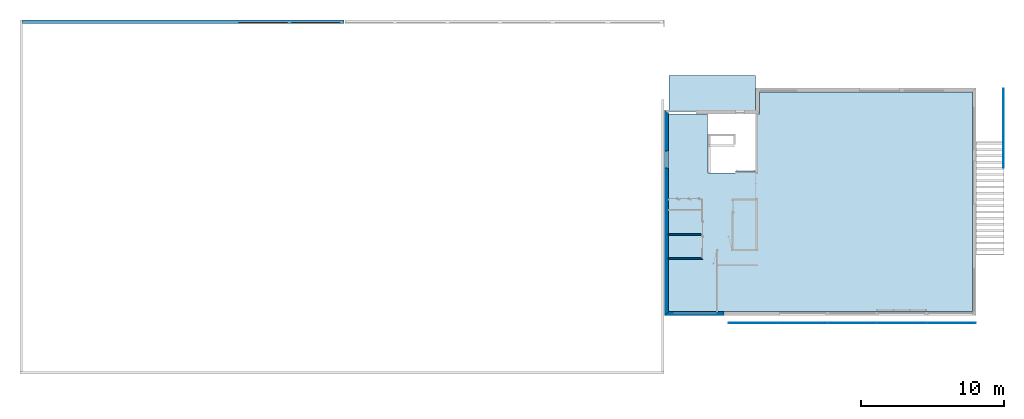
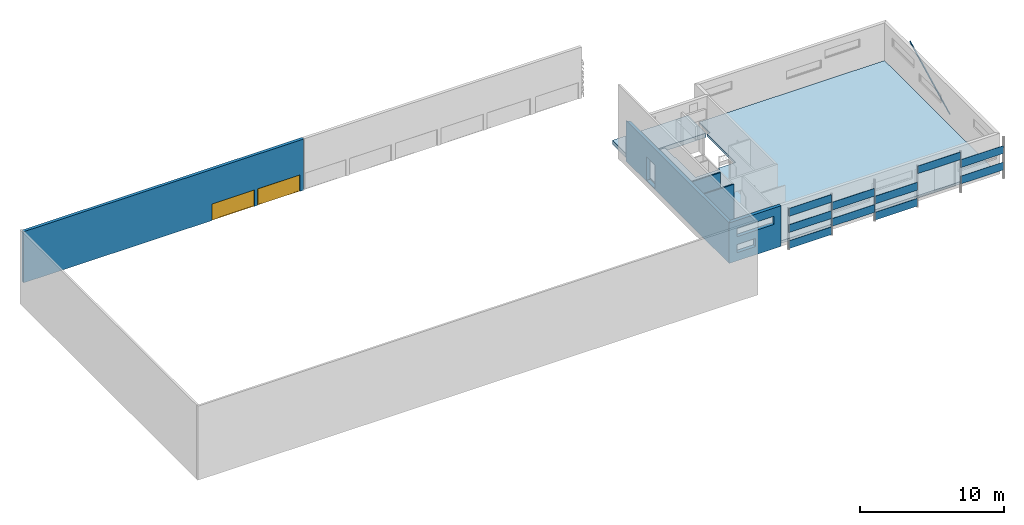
# One storey, part 3 of 14: 12 slabs, 5 walls, 2 windows, 1 beam, 5 openings.
"""IFC2X3 building model written with IfcOpenShell, lengths in metres."""

from ifc_helpers import new_model, entity, si_unit, converted_unit, money_unit, direction, frame, frame_2d, origin_with_axes, place, context, subcontext, project, spatial, polyline, rectangle, outline, extrude, clip, halfspace, open_shell, faceted_brep, surface_model, source, transform, mapped, material, layer, layer_set, layer_usage, type_object, element, fill, save


model = new_model("IFC2X3")

# Units and contexts
model_context = context("Model", 3, precision=1e-05, world=origin_with_axes(), true_north=direction((0.0, 1.0)))
body_context = subcontext(model_context, "Body", "Model", "MODEL_VIEW")
ifc_project = project(units=[si_unit("LENGTHUNIT", "METRE"), si_unit("AREAUNIT", "SQUARE_METRE"), si_unit("VOLUMEUNIT", "CUBIC_METRE"), converted_unit("PLANEANGLEUNIT", "DEGREE", entity("IfcPlaneAngleMeasure", 0.0174532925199), si_unit("PLANEANGLEUNIT", "RADIAN"), dimensions=[0, 0, 0, 0, 0, 0, 0]), si_unit("SOLIDANGLEUNIT", "STERADIAN"), money_unit("EUR"), converted_unit("TIMEUNIT", "Year", entity("IfcTimeMeasure", 31556926.0), si_unit("TIMEUNIT", "SECOND"), dimensions=[0, 0, 0, 0, 0, 0, 0]), si_unit("MASSUNIT", "GRAM"), si_unit("THERMODYNAMICTEMPERATUREUNIT", "DEGREE_CELSIUS"), si_unit("LUMINOUSINTENSITYUNIT", "LUMEN")], contexts=[model_context])

# Site, building, storey
site_placement = place(None, origin_with_axes())
site = spatial("IfcSite", under=ifc_project, at=site_placement, Name="Site", CompositionType="ELEMENT")
building_placement = place(site_placement, origin_with_axes())
building = spatial("IfcBuilding", under=site, at=building_placement, Name="Bâtiment", CompositionType="ELEMENT")
storey_placement = place(building_placement, frame((0.0, 0.0, 3.0), z_axis=(0.0, 0.0, 1.0), x_axis=(1.0, 0.0, 0.0)))
storey = spatial("IfcBuildingStorey", under=building, at=storey_placement, Name="NIVEAU HAUT ENTRÉE", CompositionType="ELEMENT", Elevation=3.0)

# Beam
ifc_material_1 = material(Name="Hachure solide 2670559909")
beam_type = type_object("IfcBeamType", Name="Hachure solide 2670559909 60 x 40", PredefinedType="NOTDEFINED")
beam_placement = place(storey_placement, frame((69.1798927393, 16.1957366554, -2.07618133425), z_axis=(0.0, 0.0, 1.0), x_axis=(1.0, 0.0, 0.0)))
element("IfcBeam", 1, at=beam_placement, inside=storey, type_object=beam_type, material=ifc_material_1, Name="Pou-003", ObjectType="Hachure solide 2670559909 60 x 40", context=body_context, shape_type="Clipping", body=[
    clip(clip(extrude(rectangle(XDim=0.04, YDim=0.06, at=frame_2d((-0.02, 0.0), x_axis=(1.0, 0.0))), frame((0.0, -0.0257107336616, -0.0131190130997), z_axis=(0.0, 0.890743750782, 0.454505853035), x_axis=(0.0, -0.454505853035, 0.890743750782)), (0.0, 0.0, 1.0), 6.27586936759), halfspace(frame((0.0, 5.53876995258, 0.0), z_axis=(0.0, -1.0, 0.0), x_axis=(0.0, 0.0, -1.0)), True)), halfspace(frame((0.0, 0.0, 0.0), z_axis=(0.0, 1.0, 0.0), x_axis=(0.0, 0.0, 1.0)), True)),
])

# Slabs
ifc_material_2 = material(Name="Hachure solide* 2593434267")
ifc_layer_1 = layer(ifc_material_2, 0.2, ventilated="UNKNOWN")
ifc_layer_set_1 = layer_set([ifc_layer_1], Name="Hachure solide* 2593434267 0.2")
ifc_layer_usage_1 = layer_usage(ifc_layer_set_1, "AXIS3", "NEGATIVE", 0.2)
slab_type_1 = type_object("IfcSlabType", Name="Hachure solide* 2593434267 200", PredefinedType="FLOOR")
slab_1_placement = place(storey_placement, frame((45.738457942, 19.968815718, 0.0), z_axis=(0.0, 0.0, 1.0), x_axis=(1.0, 0.0, 0.0)))
element("IfcSlab", 2, at=slab_1_placement, inside=storey, type_object=slab_type_1, material=ifc_layer_usage_1, Name="Dalle-002", PredefinedType="FLOOR", context=body_context, shape_type="SweptSolid", body=[
    extrude(outline(polyline([(0.0, 0.0), (0.0, -13.84), (21.26, -13.84), (21.26, 1.53), (6.36, 1.53), (6.36, 0.0), (6.1, 0.0), (6.1, -4.0), (4.7, -4.0), (4.7, -4.16), (2.78, -4.16), (2.78, -1.4), (2.72, -1.4), (2.72, 0.0), (0.0, 0.0)])), frame((0.0, 0.0, -0.2), z_axis=(0.0, 0.0, 1.0), x_axis=(1.0, 0.0, 0.0)), (0.0, 0.0, 1.0), 0.2),
])
ifc_layer_2 = layer(ifc_material_2, 0.37, ventilated="UNKNOWN")
ifc_layer_set_2 = layer_set([ifc_layer_2], Name="Hachure solide* 2593434267 0.37")
ifc_layer_usage_2 = layer_usage(ifc_layer_set_2, "AXIS3", "NEGATIVE", 0.37)
slab_type_2 = type_object("IfcSlabType", Name="Hachure solide* 2593434267 370", PredefinedType="FLOOR")
slab_2_placement = place(storey_placement, frame((45.778457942, 22.628815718, -0.03), z_axis=(0.0, 0.0, 1.0), x_axis=(1.0, 0.0, 0.0)))
element("IfcSlab", 3, at=slab_2_placement, inside=storey, type_object=slab_type_2, material=ifc_layer_usage_2, Name="Dalle-001", PredefinedType="FLOOR", context=body_context, shape_type="SweptSolid", body=[
    extrude(outline(polyline([(0.0, 0.0), (0.0, -2.5), (6.06, -2.5), (6.06, 0.0), (0.0, 0.0)])), frame((0.0, 0.0, -0.37), z_axis=(0.0, 0.0, 1.0), x_axis=(1.0, 0.0, 0.0)), (0.0, 0.0, 1.0), 0.37),
])
ifc_layer_3 = layer(ifc_material_2, 0.66, ventilated="UNKNOWN")
ifc_layer_set_3 = layer_set([ifc_layer_3], Name="Hachure solide* 2593434267 0.66")
ifc_layer_usage_3 = layer_usage(ifc_layer_set_3, "AXIS3", "NEGATIVE", 0.66)
slab_type_3 = type_object("IfcSlabType", Name="Hachure solide* 2593434267 660", PredefinedType="FLOOR")
slab_3_placement = place(storey_placement, frame((63.800457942, 5.34555409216, 1.09), z_axis=(0.0, 0.0, 1.0), x_axis=(1.0, 0.0, 0.0)))
element("IfcSlab", 4, at=slab_3_placement, inside=storey, type_object=slab_type_3, material=ifc_layer_usage_3, Name="Dalle-001", PredefinedType="FLOOR", context=body_context, shape_type="SweptSolid", body=[
    extrude(outline(polyline([(0.0, 0.0), (0.0, -0.022731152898), (3.428, -0.022731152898), (3.428, 0.0), (0.0, 0.0)])), frame((0.0, 0.0, -0.66), z_axis=(0.0, 0.0, 1.0), x_axis=(1.0, 0.0, 0.0)), (0.0, 0.0, 1.0), 0.66),
])
ifc_layer_usage_4 = layer_usage(ifc_layer_set_3, "AXIS3", "NEGATIVE", 0.66)
slab_4_placement = place(storey_placement, frame((56.884457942, 5.34555409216, 0.43), z_axis=(0.0, 0.0, 1.0), x_axis=(1.0, 0.0, 0.0)))
element("IfcSlab", 5, at=slab_4_placement, inside=storey, type_object=slab_type_3, material=ifc_layer_usage_4, Name="Dalle-001", PredefinedType="FLOOR", context=body_context, shape_type="SweptSolid", body=[
    extrude(outline(polyline([(0.0, 0.0), (0.0, -0.022731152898), (3.419, -0.022731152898), (3.419, 0.0), (0.0, 0.0)])), frame((0.0, 0.0, -0.66), z_axis=(0.0, 0.0, 1.0), x_axis=(1.0, 0.0, 0.0)), (0.0, 0.0, 1.0), 0.66),
])
ifc_layer_usage_5 = layer_usage(ifc_layer_set_3, "AXIS3", "NEGATIVE", 0.66)
slab_5_placement = place(storey_placement, frame((53.426457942, 5.34555409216, 2.49), z_axis=(0.0, 0.0, 1.0), x_axis=(1.0, 0.0, 0.0)))
element("IfcSlab", 6, at=slab_5_placement, inside=storey, type_object=slab_type_3, material=ifc_layer_usage_5, Name="Dalle-001", PredefinedType="FLOOR", context=body_context, shape_type="SweptSolid", body=[
    extrude(outline(polyline([(0.0, 0.0), (0.0, -0.022731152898), (3.428, -0.022731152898), (3.428, 0.0), (0.0, 0.0)])), frame((0.0, 0.0, -0.66), z_axis=(0.0, 0.0, 1.0), x_axis=(1.0, 0.0, 0.0)), (0.0, 0.0, 1.0), 0.66),
])
ifc_layer_usage_6 = layer_usage(ifc_layer_set_3, "AXIS3", "NEGATIVE", 0.66)
slab_6_placement = place(storey_placement, frame((53.4259576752, 5.34555409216, 1.10998747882), z_axis=(0.0, 0.0, 1.0), x_axis=(1.0, 0.0, 0.0)))
element("IfcSlab", 7, at=slab_6_placement, inside=storey, type_object=slab_type_3, material=ifc_layer_usage_6, Name="Dalle-001", PredefinedType="FLOOR", context=body_context, shape_type="SweptSolid", body=[
    extrude(outline(polyline([(0.0, 0.0), (0.0, -0.022731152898), (3.428, -0.022731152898), (3.428, 0.0), (0.0, 0.0)])), frame((0.0, 0.0, -0.66), z_axis=(0.0, 0.0, 1.0), x_axis=(1.0, 0.0, 0.0)), (0.0, 0.0, 1.0), 0.66),
])
ifc_layer_usage_7 = layer_usage(ifc_layer_set_3, "AXIS3", "NEGATIVE", 0.66)
slab_7_placement = place(storey_placement, frame((63.800457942, 5.34555409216, 2.49), z_axis=(0.0, 0.0, 1.0), x_axis=(1.0, 0.0, 0.0)))
element("IfcSlab", 8, at=slab_7_placement, inside=storey, type_object=slab_type_3, material=ifc_layer_usage_7, Name="Dalle-001", PredefinedType="FLOOR", context=body_context, shape_type="SweptSolid", body=[
    extrude(outline(polyline([(0.0, 0.0), (0.0, -0.022731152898), (3.428, -0.022731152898), (3.428, 0.0), (0.0, 0.0)])), frame((0.0, 0.0, -0.66), z_axis=(0.0, 0.0, 1.0), x_axis=(1.0, 0.0, 0.0)), (0.0, 0.0, 1.0), 0.66),
])
ifc_layer_usage_8 = layer_usage(ifc_layer_set_3, "AXIS3", "NEGATIVE", 0.66)
slab_8_placement = place(storey_placement, frame((56.884457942, 5.34555409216, 1.8), z_axis=(0.0, 0.0, 1.0), x_axis=(1.0, 0.0, 0.0)))
element("IfcSlab", 9, at=slab_8_placement, inside=storey, type_object=slab_type_3, material=ifc_layer_usage_8, Name="Dalle-001", PredefinedType="FLOOR", context=body_context, shape_type="SweptSolid", body=[
    extrude(outline(polyline([(0.0, 0.0), (0.0, -0.022731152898), (3.419, -0.022731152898), (3.419, 0.0), (0.0, 0.0)])), frame((0.0, 0.0, -0.66), z_axis=(0.0, 0.0, 1.0), x_axis=(1.0, 0.0, 0.0)), (0.0, 0.0, 1.0), 0.66),
])
ifc_layer_usage_9 = layer_usage(ifc_layer_set_3, "AXIS3", "NEGATIVE", 0.66)
slab_9_placement = place(storey_placement, frame((49.968457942, 5.34555409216, 1.8), z_axis=(0.0, 0.0, 1.0), x_axis=(1.0, 0.0, 0.0)))
element("IfcSlab", 10, at=slab_9_placement, inside=storey, type_object=slab_type_3, material=ifc_layer_usage_9, Name="Dalle-001", PredefinedType="FLOOR", context=body_context, shape_type="SweptSolid", body=[
    extrude(outline(polyline([(0.0, 0.0), (0.0, -0.0229975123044), (3.428, -0.0229975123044), (3.428, 0.0), (0.0, 0.0)])), frame((0.0, 0.0, -0.66), z_axis=(0.0, 0.0, 1.0), x_axis=(1.0, 0.0, 0.0)), (0.0, 0.0, 1.0), 0.66),
])
ifc_layer_usage_10 = layer_usage(ifc_layer_set_3, "AXIS3", "NEGATIVE", 0.66)
slab_10_placement = place(storey_placement, frame((49.968457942, 5.34555409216, 3.18), z_axis=(0.0, 0.0, 1.0), x_axis=(1.0, 0.0, 0.0)))
element("IfcSlab", 11, at=slab_10_placement, inside=storey, type_object=slab_type_3, material=ifc_layer_usage_10, Name="Dalle-001", PredefinedType="FLOOR", context=body_context, shape_type="SweptSolid", body=[
    extrude(outline(polyline([(0.0, 0.0), (0.0, -0.0229975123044), (3.428, -0.0229975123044), (3.428, 0.0), (0.0, 0.0)])), frame((0.0, 0.0, -0.66), z_axis=(0.0, 0.0, 1.0), x_axis=(1.0, 0.0, 0.0)), (0.0, 0.0, 1.0), 0.66),
])
ifc_layer_usage_11 = layer_usage(ifc_layer_set_3, "AXIS3", "NEGATIVE", 0.66)
slab_11_placement = place(storey_placement, frame((49.968457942, 5.34555409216, 0.43), z_axis=(0.0, 0.0, 1.0), x_axis=(1.0, 0.0, 0.0)))
element("IfcSlab", 12, at=slab_11_placement, inside=storey, type_object=slab_type_3, material=ifc_layer_usage_11, Name="Dalle-001", PredefinedType="FLOOR", context=body_context, shape_type="SweptSolid", body=[
    extrude(outline(polyline([(0.0, 0.0), (0.0, -0.0229975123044), (3.428, -0.0229975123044), (3.428, 0.0), (0.0, 0.0)])), frame((0.0, 0.0, -0.66), z_axis=(0.0, 0.0, 1.0), x_axis=(1.0, 0.0, 0.0)), (0.0, 0.0, 1.0), 0.66),
])
ifc_layer_4 = layer(ifc_material_2, 0.64, ventilated="UNKNOWN")
ifc_layer_set_4 = layer_set([ifc_layer_4], Name="Hachure solide* 2593434267 0.64")
ifc_layer_usage_12 = layer_usage(ifc_layer_set_4, "AXIS3", "NEGATIVE", 0.64)
slab_type_4 = type_object("IfcSlabType", Name="Hachure solide* 2593434267 640", PredefinedType="FLOOR")
slab_12_placement = place(storey_placement, frame((60.333457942, 5.34555409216, 3.16), z_axis=(0.0, 0.0, 1.0), x_axis=(1.0, 0.0, 0.0)))
element("IfcSlab", 13, at=slab_12_placement, inside=storey, type_object=slab_type_4, material=ifc_layer_usage_12, Name="Dalle-001", PredefinedType="FLOOR", context=body_context, shape_type="SweptSolid", body=[
    extrude(outline(polyline([(0.0, 0.0), (0.0, -0.022731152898), (3.437, -0.022731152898), (3.437, 0.0), (0.0, 0.0)])), frame((0.0, 0.0, -0.64), z_axis=(0.0, 0.0, 1.0), x_axis=(1.0, 0.0, 0.0)), (0.0, 0.0, 1.0), 0.64),
])

# Walls
ifc_material_3 = material(Name="Hachure solide* 3962059836")
ifc_layer_5 = layer(ifc_material_3, 0.1, ventilated="UNKNOWN")
ifc_layer_set_5 = layer_set([ifc_layer_5], Name="Hachure solide* 3962059836 0.1")
ifc_layer_usage_13 = layer_usage(ifc_layer_set_5, "AXIS2", "POSITIVE", 0.0)
wall_type_1 = type_object("IfcWallType", Name="Hachure solide* 3962059836 100", PredefinedType="NOTDEFINED")
wall_1_placement = place(storey_placement, frame((48.1362015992, 11.578815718, 0.0), z_axis=(0.0, 0.0, 1.0), x_axis=(-1.0, 0.0, 0.0)))
element("IfcWallStandardCase", 14, at=wall_1_placement, inside=storey, type_object=wall_type_1, material=ifc_layer_usage_13, Name="Mur-005", context=body_context, shape_type="SweptSolid", body=[
    extrude(outline(polyline([(0.1, 0.0), (2.3977436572, 0.0), (2.3977436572, 0.1), (0.1, 0.1), (0.1, 0.0)])), origin_with_axes(), (0.0, 0.0, 1.0), 3.2),
])
ifc_layer_usage_14 = layer_usage(ifc_layer_set_5, "AXIS2", "POSITIVE", 0.0)
wall_2_placement = place(storey_placement, frame((48.1362015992, 9.87881571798, 0.0), z_axis=(0.0, 0.0, 1.0), x_axis=(-1.0, 0.0, 0.0)))
element("IfcWallStandardCase", 15, at=wall_2_placement, inside=storey, type_object=wall_type_1, material=ifc_layer_usage_14, Name="Mur-002", context=body_context, shape_type="SweptSolid", body=[
    extrude(outline(polyline([(0.1, 0.0), (2.3977436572, 0.0), (2.3977436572, 0.1), (0.0, 0.1), (0.1, 0.0)])), origin_with_axes(), (0.0, 0.0, 1.0), 3.2),
])

# Wall, opening
ifc_layer_6 = layer(ifc_material_2, 0.16, ventilated="UNKNOWN")
ifc_material_4 = material(Name="Empty Fill 290923149")
ifc_layer_7 = layer(ifc_material_4, 0.08, ventilated="UNKNOWN")
ifc_material_5 = material(Name="Hachure solide* 3992800808")
ifc_layer_8 = layer(ifc_material_5, 0.02, ventilated="UNKNOWN")
ifc_layer_set_6 = layer_set([ifc_layer_6, ifc_layer_7, ifc_layer_8], Name="•GYMN 16+10 (1)")
ifc_layer_usage_15 = layer_usage(ifc_layer_set_6, "AXIS2", "POSITIVE", 0.0)
wall_type_2 = type_object("IfcWallType", Name="•GYMN 16+10 260", PredefinedType="NOTDEFINED")
wall_3_placement = place(storey_placement, frame((45.478457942, 20.228815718, -0.25), z_axis=(0.0, 0.0, 1.0), x_axis=(0.0, -1.0, 0.0)))
wall_3 = element("IfcWallStandardCase", 16, at=wall_3_placement, inside=storey, type_object=wall_type_2, material=ifc_layer_usage_15, Name="Mur-004", context=body_context, shape_type="SweptSolid", body=[
    extrude(outline(polyline([(0.0, 0.0), (14.36, 0.0), (14.1, 0.26), (0.26, 0.26), (0.0, 0.0)])), origin_with_axes(), (0.0, 0.0, 1.0), 3.45),
])
opening_1_placement = place(wall_3_placement, frame((3.45885483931, 0.0, 0.1), z_axis=(0.0, 0.0, 1.0), x_axis=(1.0, 0.0, 0.0)))
element("IfcOpeningElement", 17, at=opening_1_placement, cuts=wall_3, Name="Fen-007", context=body_context, shape_type="SweptSolid", body=[
    extrude(outline(polyline([(0.6, -2.0), (0.6, 0.0), (-0.6, 0.0), (-0.6, -2.0), (0.6, -2.0)])), frame((0.0, 0.26, 0.0), z_axis=(0.0, 1.0, 0.0), x_axis=(1.0, 0.0, 0.0)), (0.0, 0.0, 1.0), 0.28),
    extrude(outline(polyline([(0.6, 0.0), (0.6, 2.0), (-0.6, 2.0), (-0.6, 0.0), (0.6, 0.0)])), frame((0.0, 0.26, 0.0), z_axis=(0.0, -1.0, 0.0), x_axis=(1.0, 0.0, 0.0)), (0.0, 0.0, 1.0), 0.28),
])

# Wall, openings
ifc_layer_9 = layer(ifc_material_5, 0.02, ventilated="UNKNOWN")
ifc_layer_10 = layer(ifc_material_4, 0.08, ventilated="UNKNOWN")
ifc_layer_11 = layer(ifc_material_2, 0.16, ventilated="UNKNOWN")
ifc_layer_set_7 = layer_set([ifc_layer_9, ifc_layer_10, ifc_layer_11], Name="•GYMN 16+10")
ifc_layer_usage_16 = layer_usage(ifc_layer_set_7, "AXIS2", "POSITIVE", -0.26)
wall_4_placement = place(storey_placement, frame((49.638457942, 5.86881571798, -0.25), z_axis=(0.0, 0.0, 1.0), x_axis=(-1.0, 0.0, 0.0)))
wall_4 = element("IfcWallStandardCase", 18, at=wall_4_placement, inside=storey, type_object=wall_type_2, material=ifc_layer_usage_16, Name="Mur-004", context=body_context, shape_type="SweptSolid", body=[
    extrude(outline(polyline([(0.0, -0.26), (3.9, -0.26), (4.16, 0.0), (0.0, 0.0), (0.0, -0.26)])), origin_with_axes(), (0.0, 0.0, 1.0), 3.45),
])
opening_2_placement = place(wall_4_placement, frame((2.0422563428, 0.0, 2.0608240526), z_axis=(0.0, 0.0, 1.0), x_axis=(1.0, 0.0, 0.0)))
element("IfcOpeningElement", 19, at=opening_2_placement, cuts=wall_4, Name="Fen-028", context=body_context, shape_type="SweptSolid", body=[
    extrude(outline(polyline([(-1.5, 0.7), (-1.5, 0.0), (1.5, 0.0), (1.5, 0.7), (-1.5, 0.7)])), frame((0.0, -0.18, 0.0), z_axis=(0.0, 1.0, 0.0), x_axis=(-1.0, 0.0, 0.0)), (0.0, 0.0, 1.0), 0.44),
    extrude(outline(polyline([(-1.5, 0.0), (-1.5, -0.7), (1.5, -0.7), (1.5, 0.0), (-1.5, 0.0)])), frame((0.0, -0.18, 0.0), z_axis=(0.0, -1.0, 0.0), x_axis=(-1.0, 0.0, 0.0)), (0.0, 0.0, 1.0), 0.34),
])
opening_3_placement = place(wall_4_placement, frame((2.7922563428, 0.0, 0.7), z_axis=(0.0, 0.0, 1.0), x_axis=(1.0, 0.0, 0.0)))
element("IfcOpeningElement", 20, at=opening_3_placement, cuts=wall_4, Name="Fen-028", context=body_context, shape_type="SweptSolid", body=[
    extrude(outline(polyline([(-0.75, 0.7), (-0.75, 0.0), (0.75, 0.0), (0.75, 0.7), (-0.75, 0.7)])), frame((0.0, -0.18, 0.0), z_axis=(0.0, 1.0, 0.0), x_axis=(-1.0, 0.0, 0.0)), (0.0, 0.0, 1.0), 0.44),
    extrude(outline(polyline([(-0.75, 0.0), (-0.75, -0.7), (0.75, -0.7), (0.75, 0.0), (-0.75, 0.0)])), frame((0.0, -0.18, 0.0), z_axis=(0.0, -1.0, 0.0), x_axis=(-1.0, 0.0, 0.0)), (0.0, 0.0, 1.0), 0.34),
])

# Wall, openings, windows
ifc_material_6 = material(Name="Hachure solide* 1842511997")
ifc_layer_12 = layer(ifc_material_6, 0.1, ventilated="UNKNOWN")
ifc_material_7 = material(Name="Isolation 347608549")
ifc_layer_13 = layer(ifc_material_7, 0.12, ventilated="UNKNOWN")
ifc_material_8 = material(Name="Hachure solide* 398427698")
ifc_layer_14 = layer(ifc_material_8, 0.02, ventilated="UNKNOWN")
ifc_layer_set_8 = layer_set([ifc_layer_12, ifc_layer_13, ifc_layer_14], Name="•GYMN PANNEAU 1 0232896968")
ifc_layer_usage_17 = layer_usage(ifc_layer_set_8, "AXIS2", "POSITIVE", -0.24)
wall_type_3 = type_object("IfcWallType", Name="•GYMN PANNEAU 1 0232896968 240", PredefinedType="NOTDEFINED")
wall_5_placement = place(storey_placement, frame((0.528618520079, 26.5291158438, 1.46), z_axis=(0.0, 0.0, 1.0), x_axis=(1.0, 0.0, 0.0)))
wall_5 = element("IfcWallStandardCase", 21, at=wall_5_placement, inside=storey, type_object=wall_type_3, material=ifc_layer_usage_17, Name="Mur-003", context=body_context, shape_type="SweptSolid", body=[
    extrude(outline(polyline([(0.0, -0.24), (22.52, -0.24), (22.52, 0.0), (0.0, 0.0), (0.0, -0.24)])), origin_with_axes(), (0.0, 0.0, 1.0), 4.35),
])
opening_4_placement = place(wall_5_placement, frame((16.8433333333, 0.0, 0.0), z_axis=(0.0, 0.0, 1.0), x_axis=(1.0, 0.0, 0.0)))
opening_4 = element("IfcOpeningElement", 22, at=opening_4_placement, cuts=wall_5, Name="Fen-028", context=body_context, shape_type="SweptSolid", body=[
    extrude(outline(polyline([(1.7, 0.0), (-1.7, 0.0), (-1.7, -1.405702), (1.7, -1.405702), (1.7, 0.0)])), frame((0.0, -0.16, 0.0), z_axis=(0.0, 1.0, 0.0), x_axis=(1.0, 0.0, 0.0)), (0.0, 0.0, 1.0), 0.4),
    extrude(outline(polyline([(1.7, 1.405702), (-1.7, 1.405702), (-1.7, 0.0), (1.7, 0.0), (1.7, 1.405702)])), frame((0.0, -0.16, 0.0), z_axis=(0.0, -1.0, 0.0), x_axis=(1.0, 0.0, 0.0)), (0.0, 0.0, 1.0), 0.32),
])
opening_5_placement = place(wall_5_placement, frame((20.52, 0.0, 0.0), z_axis=(0.0, 0.0, 1.0), x_axis=(1.0, 0.0, 0.0)))
opening_5 = element("IfcOpeningElement", 23, at=opening_5_placement, cuts=wall_5, Name="Fen-028", context=body_context, shape_type="SweptSolid", body=[
    extrude(outline(polyline([(1.7, 0.0), (-1.7, 0.0), (-1.7, -1.405702), (1.7, -1.405702), (1.7, 0.0)])), frame((0.0, -0.16, 0.0), z_axis=(0.0, 1.0, 0.0), x_axis=(1.0, 0.0, 0.0)), (0.0, 0.0, 1.0), 0.4),
    extrude(outline(polyline([(1.7, 1.405702), (-1.7, 1.405702), (-1.7, 0.0), (1.7, 0.0), (1.7, 1.405702)])), frame((0.0, -0.16, 0.0), z_axis=(0.0, -1.0, 0.0), x_axis=(1.0, 0.0, 0.0)), (0.0, 0.0, 1.0), 0.32),
])
ifc_material_9 = material(Name="Sans Trame")
window_style = type_object("IfcWindowStyle", Name="Fen bascule 1 10", ConstructionType="NOTDEFINED", OperationType="SINGLE_PANEL", ParameterTakesPrecedence=False, Sizeable=False)
shared_shape = source(origin_with_axes(), body_context, "Body", "SurfaceModel", [
    faceted_brep([(1.68, -0.2, 1.365702), (1.7, -0.2, 1.365702), (1.7, -0.16, 1.365702), (1.66, -0.16, 1.365702), (1.66, -0.18, 1.365702), (1.68, -0.18, 1.365702), (1.68, -0.2, 0.039999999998), (1.7, -0.2, 0.039999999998), (1.7, -0.16, 0.039999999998), (1.66, -0.16, 0.039999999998), (1.66, -0.18, 0.039999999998), (1.68, -0.18, 0.039999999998)], [[[0, 1, 2, 3, 4, 5]], [[6, 7, 1, 0]], [[1, 7, 8, 2]], [[2, 8, 9, 3]], [[4, 3, 9, 10]], [[10, 11, 5, 4]], [[5, 11, 6, 0]], [[11, 10, 9, 8, 7, 6]]]),
    faceted_brep([(-1.66, -0.18, 1.365702), (-1.66, -0.16, 1.365702), (-1.7, -0.16, 1.365702), (-1.7, -0.2, 1.365702), (-1.68, -0.2, 1.365702), (-1.68, -0.18, 1.365702), (-1.66, -0.18, 0.039999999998), (-1.66, -0.16, 0.039999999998), (-1.7, -0.16, 0.039999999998), (-1.7, -0.2, 0.039999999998), (-1.68, -0.2, 0.039999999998), (-1.68, -0.18, 0.039999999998)], [[[0, 1, 2, 3, 4, 5]], [[6, 7, 1, 0]], [[8, 2, 1, 7]], [[9, 3, 2, 8]], [[4, 3, 9, 10]], [[10, 11, 5, 4]], [[5, 11, 6, 0]], [[11, 10, 9, 8, 7, 6]]]),
    faceted_brep([(1.68, -0.2, 1.365702), (1.7, -0.2, 1.365702), (1.7, -0.2, 1.405702), (-1.7, -0.2, 1.405702), (-1.7, -0.2, 1.365702), (-1.68, -0.2, 1.365702), (-1.68, -0.2, 1.385702), (1.68, -0.2, 1.385702), (1.68, -0.18, 1.365702), (1.66, -0.18, 1.365702), (1.66, -0.16, 1.365702), (1.7, -0.16, 1.365702), (1.7, -0.16, 1.405702), (-1.7, -0.16, 1.405702), (-1.7, -0.16, 1.365702), (-1.68, -0.18, 1.365702), (-1.66, -0.16, 1.365702), (-1.66, -0.18, 1.365702), (-1.68, -0.18, 1.385702), (1.68, -0.18, 1.385702)], [[[0, 1, 2, 3, 4, 5, 6, 7]], [[8, 9, 10, 11, 1, 0]], [[2, 1, 11, 12]], [[3, 2, 12, 13]], [[4, 3, 13, 14]], [[15, 5, 4, 14, 16, 17]], [[5, 15, 18, 6]], [[6, 18, 19, 7]], [[7, 19, 8, 0]], [[17, 9, 8, 19, 18, 15]], [[17, 16, 10, 9]], [[14, 13, 12, 11, 10, 16]]]),
    faceted_brep([(-1.66, -0.18, 0.039999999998), (-1.66, -0.16, 0.039999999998), (-1.7, -0.16, 0.039999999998), (-1.7, -0.2, 0.039999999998), (-1.68, -0.2, 0.039999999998), (-1.68, -0.18, 0.039999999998), (1.66, -0.18, 0.039999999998), (1.66, -0.16, 0.039999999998), (1.7, -0.16, 0.039999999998), (1.7, -0.16, 0.0), (-1.7, -0.16, 0.0), (-1.7, -0.2, 0.0), (1.68, -0.2, 0.019999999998), (-1.68, -0.2, 0.019999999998), (1.7, -0.2, 0.0), (1.7, -0.2, 0.039999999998), (1.68, -0.2, 0.039999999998), (-1.68, -0.18, 0.019999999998), (1.68, -0.18, 0.019999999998), (1.68, -0.18, 0.039999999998)], [[[0, 1, 2, 3, 4, 5]], [[6, 7, 1, 0]], [[8, 9, 10, 2, 1, 7]], [[11, 3, 2, 10]], [[12, 13, 4, 3, 11, 14, 15, 16]], [[13, 17, 5, 4]], [[5, 17, 18, 19, 6, 0]], [[19, 16, 15, 8, 7, 6]], [[15, 14, 9, 8]], [[14, 11, 10, 9]], [[12, 18, 17, 13]], [[19, 18, 12, 16]]]),
    faceted_brep([(-1.64, -0.18, 0.059999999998), (-1.64, -0.18, 1.345702), (-1.64, -0.22, 1.345702), (-1.64, -0.22, 0.059999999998), (-1.68, -0.18, 0.059999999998), (-1.68, -0.18, 1.345702), (-1.68, -0.22, 1.345702), (-1.68, -0.22, 0.059999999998)], [[[0, 1, 2, 3]], [[0, 4, 5, 1]], [[1, 5, 6, 2]], [[3, 2, 6, 7]], [[4, 0, 3, 7]], [[5, 4, 7, 6]]]),
    faceted_brep([(1.68, -0.18, 0.059999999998), (1.68, -0.18, 1.345702), (1.68, -0.22, 1.345702), (1.68, -0.22, 0.059999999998), (1.64, -0.18, 0.059999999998), (1.64, -0.18, 1.345702), (1.64, -0.22, 1.345702), (1.64, -0.22, 0.059999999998)], [[[0, 1, 2, 3]], [[0, 4, 5, 1]], [[1, 5, 6, 2]], [[3, 2, 6, 7]], [[4, 0, 3, 7]], [[5, 4, 7, 6]]]),
    faceted_brep([(1.68, -0.18, 0.019999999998), (1.68, -0.18, 0.059999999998), (1.68, -0.22, 0.059999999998), (1.68, -0.22, 0.019999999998), (-1.68, -0.18, 0.019999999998), (-1.68, -0.18, 0.059999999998), (-1.64, -0.18, 0.059999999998), (1.64, -0.18, 0.059999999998), (1.64, -0.22, 0.059999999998), (-1.64, -0.22, 0.059999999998), (-1.68, -0.22, 0.059999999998), (-1.68, -0.22, 0.019999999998)], [[[0, 1, 2, 3]], [[0, 4, 5, 6, 7, 1]], [[1, 7, 8, 2]], [[3, 2, 8, 9, 10, 11]], [[4, 0, 3, 11]], [[5, 4, 11, 10]], [[6, 5, 10, 9]], [[7, 6, 9, 8]]]),
    faceted_brep([(-1.68, -0.18, 1.385702), (-1.68, -0.18, 1.345702), (-1.68, -0.22, 1.345702), (-1.68, -0.22, 1.385702), (1.68, -0.18, 1.385702), (1.68, -0.18, 1.345702), (1.64, -0.18, 1.345702), (-1.64, -0.18, 1.345702), (-1.64, -0.22, 1.345702), (1.64, -0.22, 1.345702), (1.68, -0.22, 1.345702), (1.68, -0.22, 1.385702)], [[[0, 1, 2, 3]], [[0, 4, 5, 6, 7, 1]], [[1, 7, 8, 2]], [[3, 2, 8, 9, 10, 11]], [[4, 0, 3, 11]], [[5, 4, 11, 10]], [[6, 5, 10, 9]], [[7, 6, 9, 8]]]),
    surface_model("IfcShellBasedSurfaceModel", [(-1.64, -0.19, 0.059999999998), (-1.64, -0.19, 1.345702), (1.64, -0.19, 1.345702), (1.64, -0.19, 0.059999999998)], [open_shell([[[0, 1, 2, 3]]])]),
    surface_model("IfcShellBasedSurfaceModel", [(-1.64, -0.21, 0.059999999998), (1.64, -0.21, 0.059999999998), (1.64, -0.21, 1.345702), (-1.64, -0.21, 1.345702)], [open_shell([[[0, 1, 2, 3]]])]),
])
window_1_placement = place(opening_4_placement, frame((-1.7, 0.0, 0.0), z_axis=(0.0, 0.0, 1.0), x_axis=(1.0, 0.0, 0.0)))
window_1 = element("IfcWindow", 24, at=window_1_placement, inside=storey, type_object=window_style, material=ifc_material_9, Name="Fen-028", OverallHeight=1.4057, OverallWidth=3.4, context=body_context, shape_type="MappedRepresentation", body=[
    mapped(shared_shape, transform((1.7, 0.0, 0.0))),
])
fill(opening_4, window_1)
window_2_placement = place(opening_5_placement, frame((-1.7, 0.0, 0.0), z_axis=(0.0, 0.0, 1.0), x_axis=(1.0, 0.0, 0.0)))
window_2 = element("IfcWindow", 25, at=window_2_placement, inside=storey, type_object=window_style, material=ifc_material_9, Name="Fen-028", OverallHeight=1.4057, OverallWidth=3.4, context=body_context, shape_type="MappedRepresentation", body=[
    mapped(shared_shape, transform((1.7, 0.0, 0.0))),
])
fill(opening_5, window_2)

save(model, "model.ifc")
